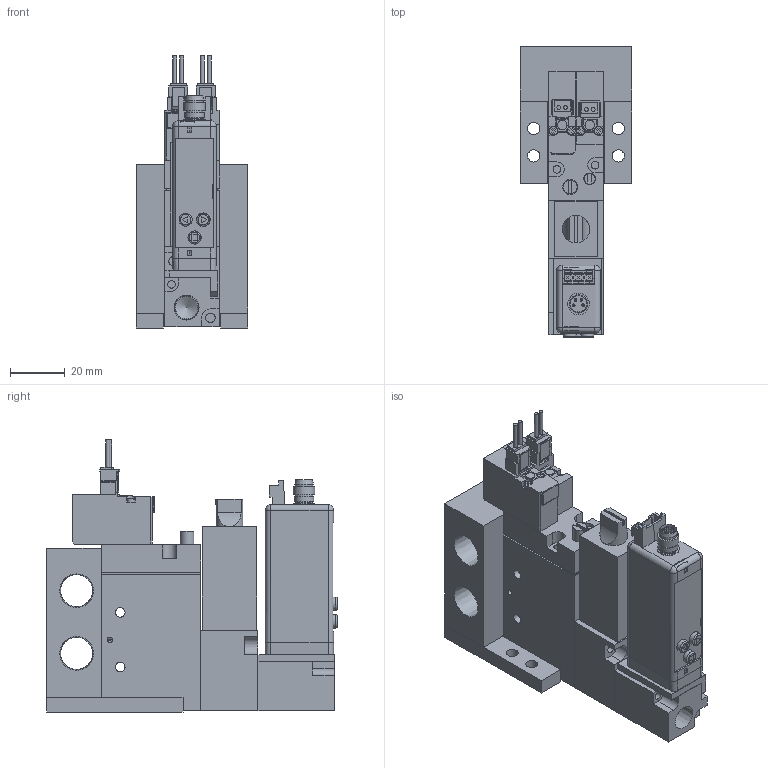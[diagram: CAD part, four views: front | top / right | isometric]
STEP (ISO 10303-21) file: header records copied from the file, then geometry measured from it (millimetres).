
FILE_DESCRIPTION(('STEP AP203'),'1');
FILE_NAME('BMPV32M2N20225AL101.stp','2025-06-16T08:50:06',(' '),(' '),'Spatial InterOp 3D',' ',' ');
FILE_SCHEMA(('CONFIG_CONTROL_DESIGN'));
Length unit declared in the file: millimetre
Products named in the file (16): BMPV32M2N20225AL101; VACUUM VALVE FUNCTION MPV42-A; ____; ______; upper plate-A; ___; ___ ___; _____; __; Filter Assy; ___-3(Rc); MVS-202; MB BRACKET; MB01; UV280-4E
Assembly tree (15 placements, depth 2):
  BMPV32M2N20225AL101
    VACUUM VALVE FUNCTION MPV42-A
    ____
    ______
    upper plate-A
    ___
    ___ ___
    _____
    __
    Filter Assy
    ___-3(Rc)
    MVS-202
    MB BRACKET
    MB BRACKET
    MB01
    UV280-4E
Bounding box: 41 x 106.6 x 99.75 mm (x, y, z)
Volume: 148150.6 mm3; surface area: 54120.1 mm2
Topology: 15 solids, 19 shells, 830 faces, 2112 edges, 1382 vertices
Faces by surface type: plane 664, cylinder 135, cone 24, sphere 4, torus 3
Full cylindrical faces by diameter (mm): 1 x4, 1.4 x4, 1.5 x1, 1.8 x2, 2 x2, 2.5 x6, 2.8 x4, 3 x4, 3.5 x14, 4 x1, 4.2 x1, 4.5 x8, 4.8 x3, 5 x3, 5.5 x1, 5.8 x2, 6 x1, 6.5 x9, 7 x1, 7.2 x1, 7.9 x1, 8 x2, 8.2 x1, 8.759 x1, 11.776 x2
Entity records: 24995 total; most frequent: CARTESIAN_POINT 4318, DIRECTION 3982, ORIENTED_EDGE 3948, EDGE_CURVE 1974, LINE 1626, VECTOR 1626, VERTEX_POINT 1365, AXIS2_PLACEMENT_3D 1178
